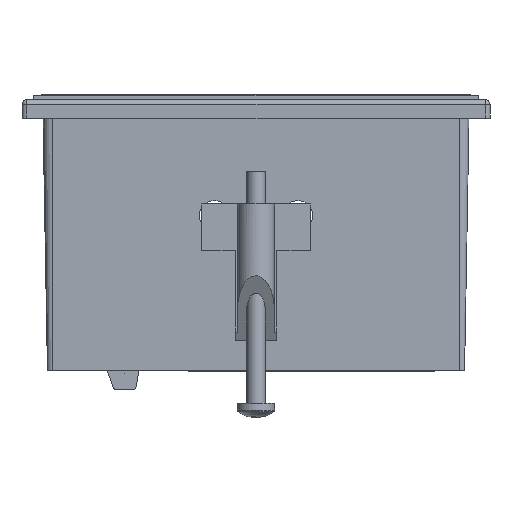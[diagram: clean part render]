
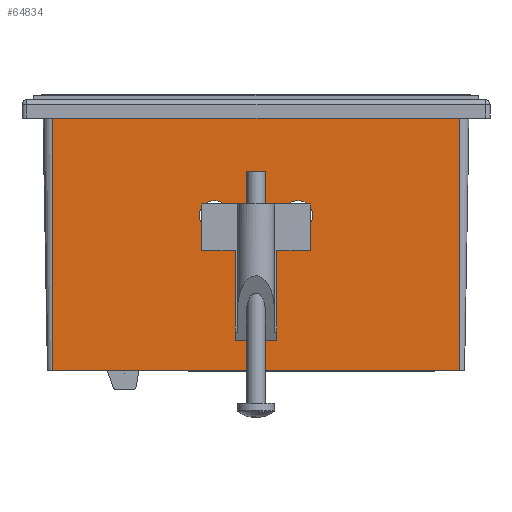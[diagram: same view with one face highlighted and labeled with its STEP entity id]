
A CAD part, left-side view. The second image highlights one B-rep face of the part: STEP entity #64834.
In plain terms, the highlighted planar face has unit normal (-1, 0, -0.018).
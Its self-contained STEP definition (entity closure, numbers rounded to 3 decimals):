
#4869 = CARTESIAN_POINT ( 'NONE',  ( -45.655, 9., -22.75 ) ) ;
#10712 = EDGE_CURVE ( 'NONE', #177637, #17170, #191996, .T. ) ;
#11456 = PLANE ( 'NONE',  #181691 ) ;
#15537 = CARTESIAN_POINT ( 'NONE',  ( -45.655, -2.5, -22.75 ) ) ;
#17089 = CARTESIAN_POINT ( 'NONE',  ( -45.542, -9., -29.25 ) ) ;
#17170 = VERTEX_POINT ( 'NONE', #164252 ) ;
#17857 = VERTEX_POINT ( 'NONE', #71307 ) ;
#25288 = FACE_BOUND ( 'NONE', #99530, .T. ) ;
#26312 = DIRECTION ( 'NONE',  ( -1., 0., -0.017 ) ) ;
#29159 = LINE ( 'NONE', #92019, #29731 ) ;
#29731 = VECTOR ( 'NONE', #60189, 1000. ) ;
#31063 = CARTESIAN_POINT ( 'NONE',  ( -45.655, 2.5, -22.75 ) ) ;
#35246 = VERTEX_POINT ( 'NONE', #131233 ) ;
#36737 = CARTESIAN_POINT ( 'NONE',  ( -45.655, 15.5, -22.75 ) ) ;
#39202 = DIRECTION ( 'NONE',  ( -0.017, 0., 1. ) ) ;
#41030 =( BOUNDED_CURVE ( )  B_SPLINE_CURVE ( 3, ( #145988, #143941, #31063, #194911 ),
 .UNSPECIFIED., .F., .F. ) 
 B_SPLINE_CURVE_WITH_KNOTS ( ( 4, 4 ),
 ( 3.142, 6.283 ),
 .UNSPECIFIED. ) 
 CURVE ( )  GEOMETRIC_REPRESENTATION_ITEM ( )  RATIONAL_B_SPLINE_CURVE ( ( 1., 0.333, 0.333, 1. ) ) 
 REPRESENTATION_ITEM ( '' )  );
#46625 = VERTEX_POINT ( 'NONE', #147220 ) ;
#46763 = LINE ( 'NONE', #179629, #129252 ) ;
#51046 = VECTOR ( 'NONE', #93518, 1000. ) ;
#54549 = ORIENTED_EDGE ( 'NONE', *, *, #10712, .F. ) ;
#60189 = DIRECTION ( 'NONE',  ( -0.017, 0., 1. ) ) ;
#64834 = ADVANCED_FACE ( 'NONE', ( #73289, #25288, #169977 ), #11456, .T. ) ;
#65486 = EDGE_CURVE ( 'NONE', #17170, #177637, #208203, .T. ) ;
#71307 = CARTESIAN_POINT ( 'NONE',  ( -45.014, 44., -59.5 ) ) ;
#73289 = FACE_OUTER_BOUND ( 'NONE', #151219, .T. ) ;
#77742 = VERTEX_POINT ( 'NONE', #201696 ) ;
#79991 = EDGE_CURVE ( 'NONE', #35246, #46625, #29159, .T. ) ;
#84386 = CARTESIAN_POINT ( 'NONE',  ( -46., -44., -3. ) ) ;
#90239 = CARTESIAN_POINT ( 'NONE',  ( -46., -44., -3. ) ) ;
#91371 =( BOUNDED_CURVE ( )  B_SPLINE_CURVE ( 3, ( #4869, #36737, #118632, #100651 ),
 .UNSPECIFIED., .F., .F. ) 
 B_SPLINE_CURVE_WITH_KNOTS ( ( 4, 4 ),
 ( 0., 3.142 ),
 .UNSPECIFIED. ) 
 CURVE ( )  GEOMETRIC_REPRESENTATION_ITEM ( )  RATIONAL_B_SPLINE_CURVE ( ( 1., 0.333, 0.333, 1. ) ) 
 REPRESENTATION_ITEM ( '' )  );
#92019 = CARTESIAN_POINT ( 'NONE',  ( -46., -44., -3. ) ) ;
#92827 = ORIENTED_EDGE ( 'NONE', *, *, #201412, .F. ) ;
#93518 = DIRECTION ( 'NONE',  ( -0.017, 0., 1. ) ) ;
#96470 = CARTESIAN_POINT ( 'NONE',  ( -45.655, -9., -22.75 ) ) ;
#96637 = EDGE_CURVE ( 'NONE', #128873, #77742, #91371, .T. ) ;
#96698 = CARTESIAN_POINT ( 'NONE',  ( -45.542, -15.5, -29.25 ) ) ;
#99530 = EDGE_LOOP ( 'NONE', ( #154614, #117242 ) ) ;
#100651 = CARTESIAN_POINT ( 'NONE',  ( -45.542, 9., -29.25 ) ) ;
#104583 = EDGE_CURVE ( 'NONE', #46625, #197893, #147160, .T. ) ;
#112680 = DIRECTION ( 'NONE',  ( 0., 1., 0. ) ) ;
#117242 = ORIENTED_EDGE ( 'NONE', *, *, #134344, .F. ) ;
#118632 = CARTESIAN_POINT ( 'NONE',  ( -45.542, 15.5, -29.25 ) ) ;
#128873 = VERTEX_POINT ( 'NONE', #206100 ) ;
#129252 = VECTOR ( 'NONE', #112680, 1000. ) ;
#129956 = ORIENTED_EDGE ( 'NONE', *, *, #104583, .T. ) ;
#131233 = CARTESIAN_POINT ( 'NONE',  ( -45.014, -44., -59.5 ) ) ;
#131537 = CARTESIAN_POINT ( 'NONE',  ( -45.542, -9., -29.25 ) ) ;
#132317 = ORIENTED_EDGE ( 'NONE', *, *, #65486, .F. ) ;
#132805 = CARTESIAN_POINT ( 'NONE',  ( -45.655, -15.5, -22.75 ) ) ;
#134344 = EDGE_CURVE ( 'NONE', #77742, #128873, #41030, .T. ) ;
#143941 = CARTESIAN_POINT ( 'NONE',  ( -45.542, 2.5, -29.25 ) ) ;
#144545 = LINE ( 'NONE', #174337, #51046 ) ;
#145988 = CARTESIAN_POINT ( 'NONE',  ( -45.542, 9., -29.25 ) ) ;
#147160 = LINE ( 'NONE', #84386, #200572 ) ;
#147220 = CARTESIAN_POINT ( 'NONE',  ( -46., -44., -3. ) ) ;
#148731 = CARTESIAN_POINT ( 'NONE',  ( -45.542, -9., -29.25 ) ) ;
#149238 = DIRECTION ( 'NONE',  ( 0., 1., 0. ) ) ;
#150414 = CARTESIAN_POINT ( 'NONE',  ( -46., 44., -3. ) ) ;
#151219 = EDGE_LOOP ( 'NONE', ( #129956, #206146, #92827, #202911 ) ) ;
#154614 = ORIENTED_EDGE ( 'NONE', *, *, #96637, .F. ) ;
#160582 = EDGE_CURVE ( 'NONE', #17857, #197893, #144545, .T. ) ;
#162271 = CARTESIAN_POINT ( 'NONE',  ( -45.542, -2.5, -29.25 ) ) ;
#164252 = CARTESIAN_POINT ( 'NONE',  ( -45.655, -9., -22.75 ) ) ;
#169977 = FACE_BOUND ( 'NONE', #180249, .T. ) ;
#174337 = CARTESIAN_POINT ( 'NONE',  ( -46., 44., -3. ) ) ;
#177497 = CARTESIAN_POINT ( 'NONE',  ( -45.655, -9., -22.75 ) ) ;
#177637 = VERTEX_POINT ( 'NONE', #17089 ) ;
#179629 = CARTESIAN_POINT ( 'NONE',  ( -45.014, -44., -59.5 ) ) ;
#180249 = EDGE_LOOP ( 'NONE', ( #132317, #54549 ) ) ;
#181691 = AXIS2_PLACEMENT_3D ( 'NONE', #90239, #26312, #39202 ) ;
#191996 =( BOUNDED_CURVE ( )  B_SPLINE_CURVE ( 3, ( #148731, #96698, #132805, #177497 ),
 .UNSPECIFIED., .F., .F. ) 
 B_SPLINE_CURVE_WITH_KNOTS ( ( 4, 4 ),
 ( 3.142, 6.283 ),
 .UNSPECIFIED. ) 
 CURVE ( )  GEOMETRIC_REPRESENTATION_ITEM ( )  RATIONAL_B_SPLINE_CURVE ( ( 1., 0.333, 0.333, 1. ) ) 
 REPRESENTATION_ITEM ( '' )  );
#194911 = CARTESIAN_POINT ( 'NONE',  ( -45.655, 9., -22.75 ) ) ;
#197893 = VERTEX_POINT ( 'NONE', #150414 ) ;
#200572 = VECTOR ( 'NONE', #149238, 1000. ) ;
#201412 = EDGE_CURVE ( 'NONE', #35246, #17857, #46763, .T. ) ;
#201696 = CARTESIAN_POINT ( 'NONE',  ( -45.542, 9., -29.25 ) ) ;
#202911 = ORIENTED_EDGE ( 'NONE', *, *, #79991, .T. ) ;
#206100 = CARTESIAN_POINT ( 'NONE',  ( -45.655, 9., -22.75 ) ) ;
#206146 = ORIENTED_EDGE ( 'NONE', *, *, #160582, .F. ) ;
#208203 =( BOUNDED_CURVE ( )  B_SPLINE_CURVE ( 3, ( #96470, #15537, #162271, #131537 ),
 .UNSPECIFIED., .F., .F. ) 
 B_SPLINE_CURVE_WITH_KNOTS ( ( 4, 4 ),
 ( 0., 3.142 ),
 .UNSPECIFIED. ) 
 CURVE ( )  GEOMETRIC_REPRESENTATION_ITEM ( )  RATIONAL_B_SPLINE_CURVE ( ( 1., 0.333, 0.333, 1. ) ) 
 REPRESENTATION_ITEM ( '' )  );
